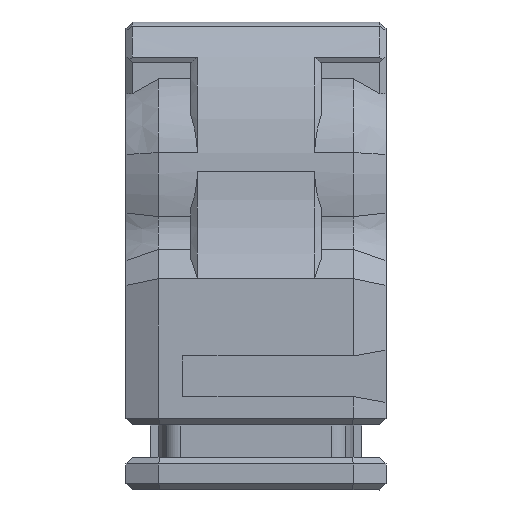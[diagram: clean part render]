
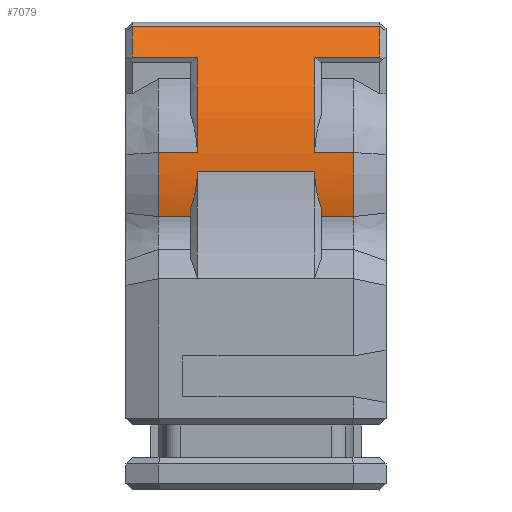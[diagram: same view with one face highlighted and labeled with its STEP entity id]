
A CAD part, left-side view. The second image highlights one B-rep face of the part: STEP entity #7079.
In plain terms, the highlighted cylindrical face has radius 13.1 mm (diameter 26.2 mm), a partial arc.
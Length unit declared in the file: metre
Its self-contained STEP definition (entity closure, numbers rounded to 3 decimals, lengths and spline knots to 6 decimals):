
#166=CIRCLE('',#7317,0.0131);
#169=CIRCLE('',#7321,0.0131);
#230=CIRCLE('',#7443,0.0131);
#250=CIRCLE('',#7488,0.0131);
#279=CIRCLE('',#7583,0.0131);
#282=CIRCLE('',#7590,0.0131);
#291=CIRCLE('',#7629,0.0131);
#294=CIRCLE('',#7635,0.0131);
#354=CYLINDRICAL_SURFACE('',#7636,0.0131);
#411=B_SPLINE_CURVE_WITH_KNOTS('',3,(#10567,#10568,#10569,#10570),
 .UNSPECIFIED.,.F.,.F.,(4,4),(0.,0.002275),
 .UNSPECIFIED.);
#412=B_SPLINE_CURVE_WITH_KNOTS('',3,(#10578,#10579,#10580,#10581),
 .UNSPECIFIED.,.F.,.F.,(4,4),(0.,0.002275),.UNSPECIFIED.);
#1721=ORIENTED_EDGE('',*,*,#3285,.T.);
#1722=ORIENTED_EDGE('',*,*,#3044,.T.);
#1723=ORIENTED_EDGE('',*,*,#3057,.T.);
#1724=ORIENTED_EDGE('',*,*,#3049,.F.);
#1725=ORIENTED_EDGE('',*,*,#2875,.F.);
#1726=ORIENTED_EDGE('',*,*,#3284,.T.);
#1727=ORIENTED_EDGE('',*,*,#3283,.F.);
#1728=ORIENTED_EDGE('',*,*,#3280,.T.);
#1729=ORIENTED_EDGE('',*,*,#2879,.F.);
#1730=ORIENTED_EDGE('',*,*,#2872,.F.);
#1731=ORIENTED_EDGE('',*,*,#3123,.T.);
#1732=ORIENTED_EDGE('',*,*,#2892,.T.);
#1733=ORIENTED_EDGE('',*,*,#3279,.T.);
#1734=ORIENTED_EDGE('',*,*,#3344,.T.);
#1735=ORIENTED_EDGE('',*,*,#3343,.T.);
#1736=ORIENTED_EDGE('',*,*,#3191,.T.);
#1737=ORIENTED_EDGE('',*,*,#3348,.T.);
#1738=ORIENTED_EDGE('',*,*,#3349,.T.);
#2872=EDGE_CURVE('',#3912,#3913,#4592,.T.);
#2875=EDGE_CURVE('',#3915,#3916,#166,.T.);
#2879=EDGE_CURVE('',#3913,#3918,#169,.T.);
#2892=EDGE_CURVE('',#3927,#3931,#4599,.T.);
#3044=EDGE_CURVE('',#4028,#4027,#4692,.T.);
#3049=EDGE_CURVE('',#3916,#4029,#4695,.T.);
#3057=EDGE_CURVE('',#4027,#4029,#230,.T.);
#3123=EDGE_CURVE('',#3912,#3927,#250,.T.);
#3191=EDGE_CURVE('',#4098,#4113,#4783,.T.);
#3279=EDGE_CURVE('',#3931,#4157,#279,.T.);
#3280=EDGE_CURVE('',#4158,#3918,#411,.T.);
#3283=EDGE_CURVE('',#4158,#4159,#4861,.T.);
#3284=EDGE_CURVE('',#3915,#4159,#412,.T.);
#3285=EDGE_CURVE('',#4160,#4028,#282,.T.);
#3343=EDGE_CURVE('',#4187,#4098,#291,.T.);
#3344=EDGE_CURVE('',#4157,#4187,#4909,.T.);
#3348=EDGE_CURVE('',#4113,#4189,#294,.T.);
#3349=EDGE_CURVE('',#4189,#4160,#4911,.T.);
#3912=VERTEX_POINT('',#9700);
#3913=VERTEX_POINT('',#9702);
#3915=VERTEX_POINT('',#9707);
#3916=VERTEX_POINT('',#9709);
#3918=VERTEX_POINT('',#9715);
#3927=VERTEX_POINT('',#9737);
#3931=VERTEX_POINT('',#9747);
#4027=VERTEX_POINT('',#10084);
#4028=VERTEX_POINT('',#10086);
#4029=VERTEX_POINT('',#10094);
#4098=VERTEX_POINT('',#10334);
#4113=VERTEX_POINT('',#10392);
#4157=VERTEX_POINT('',#10564);
#4158=VERTEX_POINT('',#10571);
#4159=VERTEX_POINT('',#10575);
#4160=VERTEX_POINT('',#10584);
#4187=VERTEX_POINT('',#10704);
#4189=VERTEX_POINT('',#10714);
#4592=LINE('',#9701,#5240);
#4599=LINE('',#9748,#5247);
#4692=LINE('',#10085,#5340);
#4695=LINE('',#10097,#5343);
#4783=LINE('',#10393,#5431);
#4861=LINE('',#10576,#5509);
#4909=LINE('',#10707,#5557);
#4911=LINE('',#10717,#5559);
#5240=VECTOR('',#7936,1.);
#5247=VECTOR('',#7977,1.);
#5340=VECTOR('',#8278,1.);
#5343=VECTOR('',#8285,1.);
#5431=VECTOR('',#8565,1.);
#5509=VECTOR('',#8753,1.);
#5557=VECTOR('',#8887,1.);
#5559=VECTOR('',#8901,1.);
#6007=EDGE_LOOP('',(#1721,#1722,#1723,#1724,#1725,#1726,#1727,#1728,#1729,
#1730,#1731,#1732,#1733,#1734,#1735,#1736,#1737,#1738));
#6437=FACE_BOUND('',#6007,.T.);
#7079=ADVANCED_FACE('',(#6437),#354,.T.);
#7317=AXIS2_PLACEMENT_3D('',#9708,#7943,#7944);
#7321=AXIS2_PLACEMENT_3D('',#9716,#7952,#7953);
#7443=AXIS2_PLACEMENT_3D('',#10117,#8300,#8301);
#7488=AXIS2_PLACEMENT_3D('',#10256,#8428,#8429);
#7583=AXIS2_PLACEMENT_3D('',#10565,#8743,#8744);
#7590=AXIS2_PLACEMENT_3D('',#10583,#8758,#8759);
#7629=AXIS2_PLACEMENT_3D('',#10705,#8883,#8884);
#7635=AXIS2_PLACEMENT_3D('',#10715,#8897,#8898);
#7636=AXIS2_PLACEMENT_3D('',#10716,#8899,#8900);
#7936=DIRECTION('',(0.,1.,0.));
#7943=DIRECTION('',(0.,-1.,0.));
#7944=DIRECTION('',(-0.73,0.,0.683));
#7952=DIRECTION('',(0.,1.,0.));
#7953=DIRECTION('',(-0.73,0.,0.683));
#7977=DIRECTION('',(0.,1.,0.));
#8278=DIRECTION('',(0.,1.,0.));
#8285=DIRECTION('',(0.,1.,0.));
#8300=DIRECTION('',(0.,-1.,0.));
#8301=DIRECTION('',(-0.73,0.,0.683));
#8428=DIRECTION('',(0.,1.,0.));
#8429=DIRECTION('',(-0.73,0.,0.683));
#8565=DIRECTION('',(0.,1.,0.));
#8743=DIRECTION('',(0.,1.,0.));
#8744=DIRECTION('',(-0.73,0.,0.683));
#8753=DIRECTION('',(0.,1.,0.));
#8758=DIRECTION('',(0.,-1.,0.));
#8759=DIRECTION('',(-0.73,0.,0.683));
#8883=DIRECTION('',(0.,1.,0.));
#8884=DIRECTION('',(-0.73,0.,0.683));
#8887=DIRECTION('',(0.,-1.,0.));
#8897=DIRECTION('',(0.,-1.,0.));
#8898=DIRECTION('',(-0.73,0.,0.683));
#8899=DIRECTION('',(0.,1.,0.));
#8900=DIRECTION('',(-0.73,0.,0.683));
#8901=DIRECTION('',(0.,-1.,0.));
#9700=CARTESIAN_POINT('',(-0.05348,0.051839,0.231651));
#9701=CARTESIAN_POINT('',(-0.05348,0.057839,0.231651));
#9702=CARTESIAN_POINT('',(-0.05348,0.053839,0.231651));
#9707=CARTESIAN_POINT('',(-0.053585,0.061839,0.232191));
#9708=CARTESIAN_POINT('',(-0.040677,0.061839,0.234423));
#9709=CARTESIAN_POINT('',(-0.05348,0.061839,0.231651));
#9715=CARTESIAN_POINT('',(-0.053585,0.053839,0.232191));
#9716=CARTESIAN_POINT('',(-0.040677,0.053839,0.234423));
#9737=CARTESIAN_POINT('',(-0.053725,0.051839,0.235586));
#9747=CARTESIAN_POINT('',(-0.053725,0.054239,0.235586));
#9748=CARTESIAN_POINT('',(-0.053725,0.057839,0.235586));
#10084=CARTESIAN_POINT('',(-0.053725,0.063839,0.235586));
#10085=CARTESIAN_POINT('',(-0.053725,0.057839,0.235586));
#10086=CARTESIAN_POINT('',(-0.053725,0.061439,0.235586));
#10094=CARTESIAN_POINT('',(-0.05348,0.063839,0.231651));
#10097=CARTESIAN_POINT('',(-0.05348,0.057839,0.231651));
#10117=CARTESIAN_POINT('',(-0.040677,0.063839,0.234423));
#10256=CARTESIAN_POINT('',(-0.040677,0.051839,0.234423));
#10334=CARTESIAN_POINT('',(-0.050246,0.050239,0.243369));
#10392=CARTESIAN_POINT('',(-0.050246,0.065439,0.243369));
#10393=CARTESIAN_POINT('',(-0.050246,0.057839,0.243369));
#10564=CARTESIAN_POINT('',(-0.051724,0.054239,0.241464));
#10565=CARTESIAN_POINT('',(-0.040677,0.054239,0.234423));
#10567=CARTESIAN_POINT('',(-0.053777,0.054239,0.234423));
#10568=CARTESIAN_POINT('',(-0.053777,0.054237,0.23365));
#10569=CARTESIAN_POINT('',(-0.053709,0.054092,0.232909));
#10570=CARTESIAN_POINT('',(-0.053585,0.053839,0.232191));
#10571=CARTESIAN_POINT('',(-0.053777,0.054239,0.234423));
#10575=CARTESIAN_POINT('',(-0.053777,0.061439,0.234423));
#10576=CARTESIAN_POINT('',(-0.053777,0.057839,0.234423));
#10578=CARTESIAN_POINT('',(-0.053585,0.061839,0.232191));
#10579=CARTESIAN_POINT('',(-0.053709,0.061586,0.232909));
#10580=CARTESIAN_POINT('',(-0.053777,0.061441,0.23365));
#10581=CARTESIAN_POINT('',(-0.053777,0.061439,0.234423));
#10583=CARTESIAN_POINT('',(-0.040677,0.061439,0.234423));
#10584=CARTESIAN_POINT('',(-0.051724,0.061439,0.241464));
#10704=CARTESIAN_POINT('',(-0.051724,0.050239,0.241464));
#10705=CARTESIAN_POINT('',(-0.040677,0.050239,0.234423));
#10707=CARTESIAN_POINT('',(-0.051724,0.057839,0.241464));
#10714=CARTESIAN_POINT('',(-0.051724,0.065439,0.241464));
#10715=CARTESIAN_POINT('',(-0.040677,0.065439,0.234423));
#10716=CARTESIAN_POINT('',(-0.040677,0.057839,0.234423));
#10717=CARTESIAN_POINT('',(-0.051724,0.057839,0.241464));
